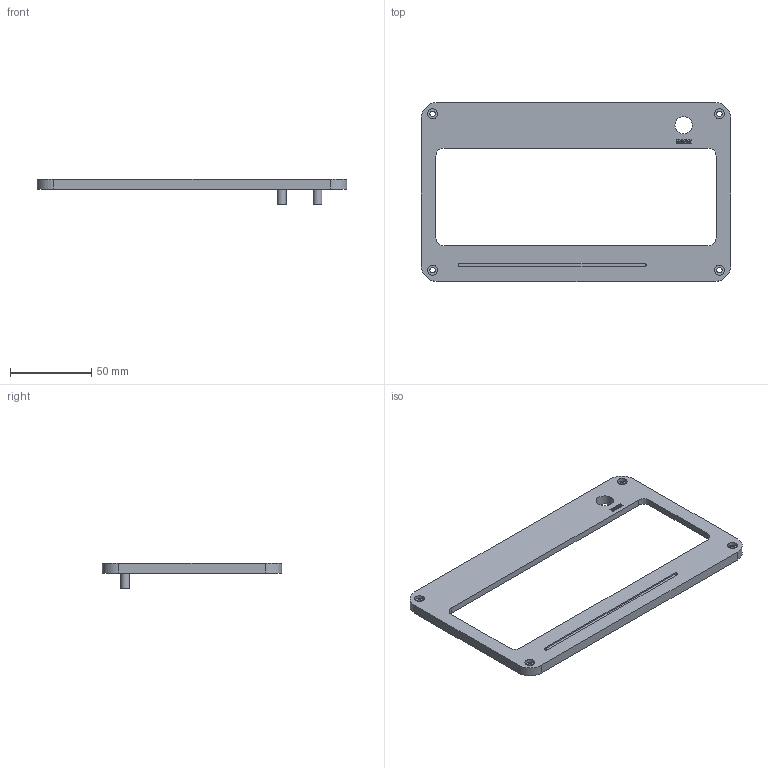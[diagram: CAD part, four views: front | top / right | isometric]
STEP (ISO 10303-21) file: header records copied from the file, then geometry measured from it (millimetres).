
FILE_DESCRIPTION(('Open CASCADE Model'),'2;1');
FILE_NAME('Open CASCADE Shape Model','2026-10-18T19:44:55',('Author'),( 'Open CASCADE'),'Open CASCADE STEP processor 7.9','Open CASCADE 7.9' ,'Unknown');
FILE_SCHEMA(('AUTOMOTIVE_DESIGN { 1 0 10303 214 1 1 1 1 }'));
Length unit declared in the file: millimetre
Products named in the file (1): Open CASCADE STEP translator 7.9 2
Bounding box: 190 x 110 x 15.5 mm (x, y, z)
Volume: 59149.7 mm3; surface area: 28348.8 mm2
Topology: 1 solids, 1 shells, 136 faces, 342 edges, 228 vertices
Faces by surface type: plane 69, extrusion 34, cylinder 33
Full cylindrical faces by diameter (mm): 2.9 x6, 3.3 x4, 5.4 x2, 6.1 x4, 10.6 x1
Entity records: 9145 total; most frequent: CARTESIAN_POINT 2622, DIRECTION 1038, ORIENTED_EDGE 684, PCURVE 684, DEFINITIONAL_REPRESENTATION 684, VECTOR 664, LINE 630, EDGE_CURVE 342
